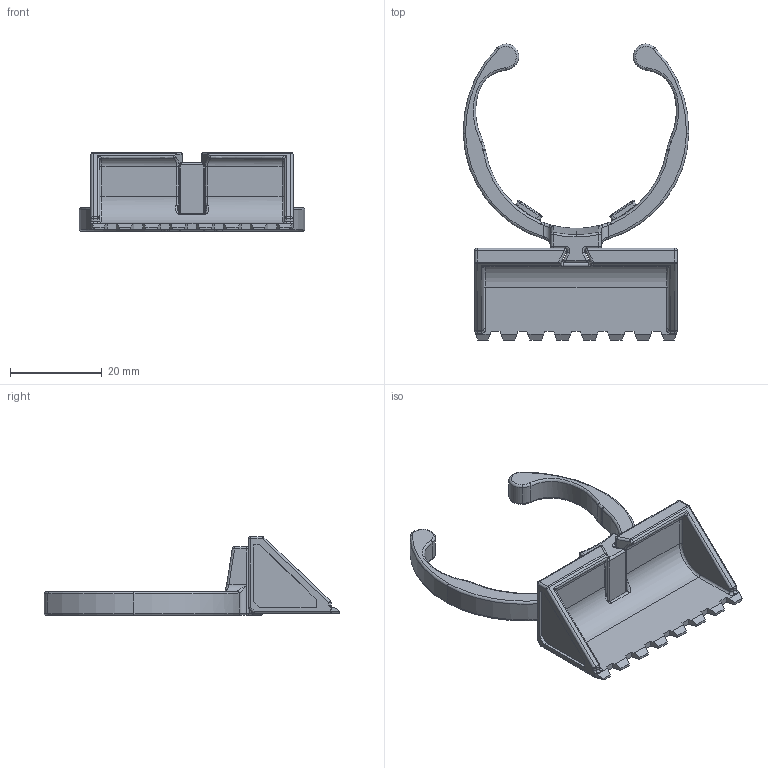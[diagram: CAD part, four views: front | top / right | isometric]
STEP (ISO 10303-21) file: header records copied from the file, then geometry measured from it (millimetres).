
FILE_DESCRIPTION(/* description */ (''),/* implementation_level */ '2;1');
FILE_NAME(/* name */ 'Ari Dozer.step',/* time_stamp */ '2025-08-27T15:12:46-07:00',/* author */ (''),/* organization */ (''),/* preprocessor_version */ 'ST-DEVELOPER v20.1',/* originating_system */ 'Autodesk Translation Framework v14.10.0.0',/* authorisation */ '');
FILE_SCHEMA (('AUTOMOTIVE_DESIGN { 1 0 10303 214 3 1 1 }'));
Length unit declared in the file: millimetre
Products named in the file (3): Evo Dozer_CAD Library; Dozer Bucket; Ari Front Clip
Assembly tree (2 placements, depth 2):
  Evo Dozer_CAD Library
    Dozer Bucket
    Ari Front Clip
Bounding box: 49.19 x 64.59 x 17.21 mm (x, y, z)
Volume: 6072.4 mm3; surface area: 6089.7 mm2
Topology: 2 solids, 2 shells, 362 faces, 832 edges, 471 vertices
Faces by surface type: plane 107, cylinder 96, bspline 72, torus 53, sphere 30, cone 4
Entity records: 12979 total; most frequent: CARTESIAN_POINT 5047, ORIENTED_EDGE 1650, DIRECTION 1622, EDGE_CURVE 825, AXIS2_PLACEMENT_3D 630, VERTEX_POINT 471, EDGE_LOOP 366, LINE 362
